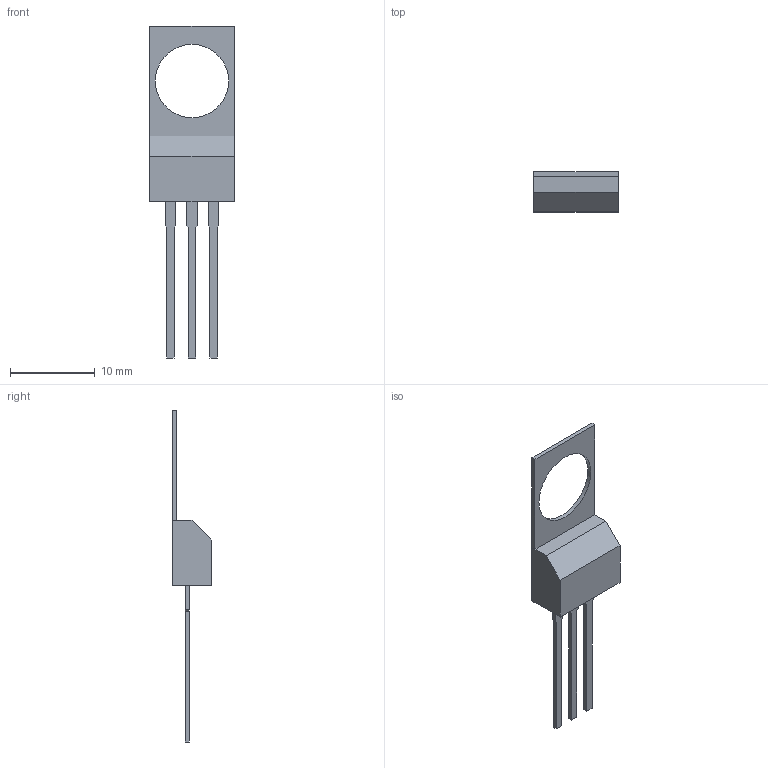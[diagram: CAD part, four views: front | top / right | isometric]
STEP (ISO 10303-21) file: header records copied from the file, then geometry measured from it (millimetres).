
FILE_DESCRIPTION(('FreeCAD Model'),'2;1');
FILE_NAME('/var/www/3D/0T/13191912.1.1.stp','2020-10-20T16:17:25',( 'Author'),(''),'Open CASCADE STEP processor 6.9','FreeCAD','Unknown' );
FILE_SCHEMA(('AUTOMOTIVE_DESIGN { 1 0 10303 214 1 1 1 1 }'));
Length unit declared in the file: millimetre
Products named in the file (4): ASSEMBLY; Tab; Body; PinsArray
Assembly tree (3 placements, depth 2):
  ASSEMBLY
    Tab
    Body
    PinsArray
Bounding box: 10 x 4.7 x 39.2 mm (x, y, z)
Volume: 395.3 mm3; surface area: 640.7 mm2
Topology: 5 solids, 5 shells, 44 faces, 102 edges, 68 vertices
Faces by surface type: plane 43, cylinder 1
Full cylindrical faces by diameter (mm): 8.667 x1
Entity records: 2670 total; most frequent: CARTESIAN_POINT 434, DIRECTION 402, LINE 302, VECTOR 302, ORIENTED_EDGE 204, PCURVE 204, DEFINITIONAL_REPRESENTATION 204, EDGE_CURVE 102
